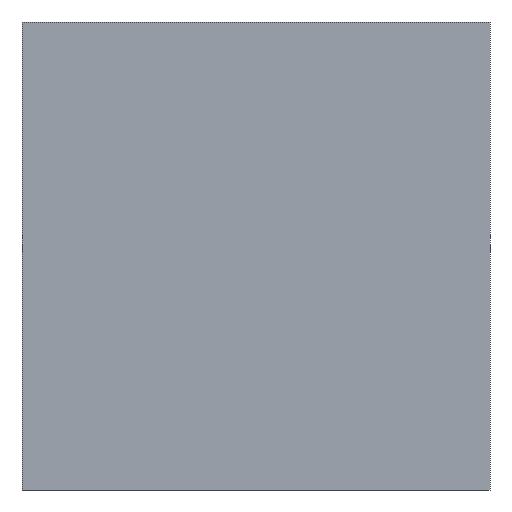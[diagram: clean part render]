
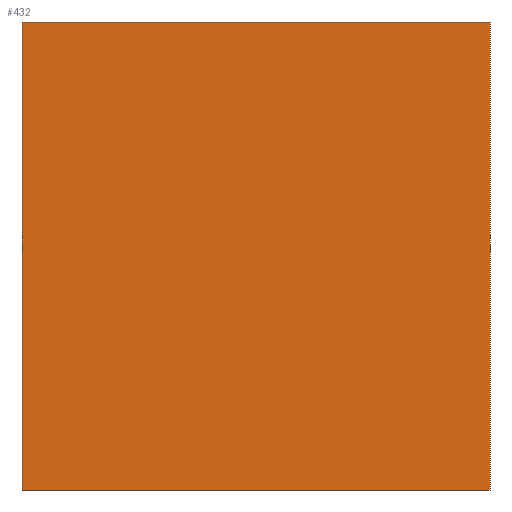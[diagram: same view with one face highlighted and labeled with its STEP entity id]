
A CAD part, front view. The second image highlights one B-rep face of the part: STEP entity #432.
In plain terms, the highlighted planar face has unit normal (0, -1, 0).
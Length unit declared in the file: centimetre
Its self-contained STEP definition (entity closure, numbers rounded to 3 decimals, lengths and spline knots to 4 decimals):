
#15 = CARTESIAN_POINT ( 'NONE',  ( 1000., 0., 1000. ) ) ;
#17 = VERTEX_POINT ( 'NONE', #517 ) ;
#46 = VERTEX_POINT ( 'NONE', #478 ) ;
#49 = EDGE_CURVE ( 'NONE', #122, #469, #554, .T. ) ;
#90 = CARTESIAN_POINT ( 'NONE',  ( 0., 0., 0. ) ) ;
#122 = VERTEX_POINT ( 'NONE', #322 ) ;
#125 = CARTESIAN_POINT ( 'NONE',  ( 0., 0., 1000. ) ) ;
#128 = EDGE_CURVE ( 'NONE', #469, #46, #405, .T. ) ;
#144 = DIRECTION ( 'NONE',  ( 0., 0., 1. ) ) ;
#146 = ORIENTED_EDGE ( 'NONE', *, *, #49, .T. ) ;
#147 = DIRECTION ( 'NONE',  ( 1., 0., 0. ) ) ;
#173 = VECTOR ( 'NONE', #188, 100. ) ;
#188 = DIRECTION ( 'NONE',  ( 0., 0., -1. ) ) ;
#200 = VECTOR ( 'NONE', #491, 100. ) ;
#276 = EDGE_LOOP ( 'NONE', ( #525, #364, #374, #146 ) ) ;
#289 = VECTOR ( 'NONE', #147, 100. ) ;
#316 = CARTESIAN_POINT ( 'NONE',  ( 0., 0., 1000. ) ) ;
#322 = CARTESIAN_POINT ( 'NONE',  ( 0., 0., 1000. ) ) ;
#356 = AXIS2_PLACEMENT_3D ( 'NONE', #367, #494, #144 ) ;
#357 = CARTESIAN_POINT ( 'NONE',  ( 0., 0., 0. ) ) ;
#364 = ORIENTED_EDGE ( 'NONE', *, *, #464, .F. ) ;
#367 = CARTESIAN_POINT ( 'NONE',  ( 0., 0., 1000. ) ) ;
#374 = ORIENTED_EDGE ( 'NONE', *, *, #510, .F. ) ;
#401 = LINE ( 'NONE', #15, #173 ) ;
#405 = LINE ( 'NONE', #90, #289 ) ;
#411 = PLANE ( 'NONE',  #356 ) ;
#432 = ADVANCED_FACE ( 'NONE', ( #446 ), #411, .F. ) ;
#446 = FACE_OUTER_BOUND ( 'NONE', #276, .T. ) ;
#464 = EDGE_CURVE ( 'NONE', #17, #46, #401, .T. ) ;
#469 = VERTEX_POINT ( 'NONE', #357 ) ;
#478 = CARTESIAN_POINT ( 'NONE',  ( 1000., 0., 0. ) ) ;
#491 = DIRECTION ( 'NONE',  ( 1., 0., 0. ) ) ;
#494 = DIRECTION ( 'NONE',  ( 0., 1., 0. ) ) ;
#506 = VECTOR ( 'NONE', #556, 100. ) ;
#510 = EDGE_CURVE ( 'NONE', #122, #17, #534, .T. ) ;
#517 = CARTESIAN_POINT ( 'NONE',  ( 1000., 0., 1000. ) ) ;
#525 = ORIENTED_EDGE ( 'NONE', *, *, #128, .T. ) ;
#534 = LINE ( 'NONE', #316, #200 ) ;
#554 = LINE ( 'NONE', #125, #506 ) ;
#556 = DIRECTION ( 'NONE',  ( 0., 0., -1. ) ) ;
